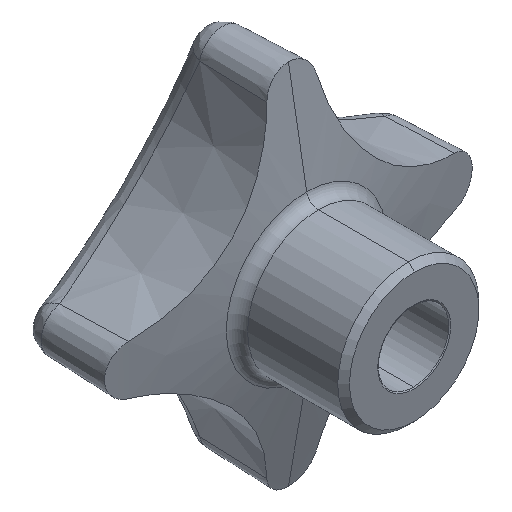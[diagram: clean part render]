
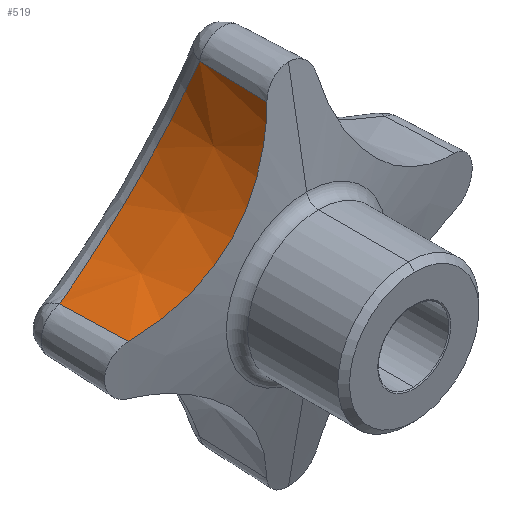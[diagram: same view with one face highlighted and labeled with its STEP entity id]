
A CAD part, isometric view. The second image highlights one B-rep face of the part: STEP entity #519.
In plain terms, the highlighted conical face has half-angle 2 degrees and reference radius 13.981 mm.
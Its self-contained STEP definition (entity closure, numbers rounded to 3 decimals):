
#38 = DIRECTION ( 'NONE',  ( 0., 1., 0. ) ) ;
#42 = CARTESIAN_POINT ( 'NONE',  ( -13.822, 16.327, 1.903 ) ) ;
#62 = CARTESIAN_POINT ( 'NONE',  ( -5.88, 9.47, 6.379 ) ) ;
#72 = CARTESIAN_POINT ( 'NONE',  ( -12.421, 10.172, 2.415 ) ) ;
#123 = CARTESIAN_POINT ( 'NONE',  ( -3.616, 17.546, 8.936 ) ) ;
#139 = VERTEX_POINT ( 'NONE', #1967 ) ;
#141 = LINE ( 'NONE', #931, #1104 ) ;
#161 = VERTEX_POINT ( 'NONE', #539 ) ;
#178 = FACE_OUTER_BOUND ( 'NONE', #1506, .T. ) ;
#227 = CARTESIAN_POINT ( 'NONE',  ( -2.234, 10.29, 13.129 ) ) ;
#255 = CARTESIAN_POINT ( 'NONE',  ( -3.181, 9.847, 10.338 ) ) ;
#266 = CARTESIAN_POINT ( 'NONE',  ( -13.097, 16.565, 2.017 ) ) ;
#325 = LINE ( 'NONE', #512, #1781 ) ;
#368 = CARTESIAN_POINT ( 'NONE',  ( -2.416, 10.172, 12.417 ) ) ;
#400 = CARTESIAN_POINT ( 'NONE',  ( -1.903, 16.327, 13.822 ) ) ;
#402 = CARTESIAN_POINT ( 'NONE',  ( -1.903, 16.327, 13.822 ) ) ;
#431 = ORIENTED_EDGE ( 'NONE', *, *, #1122, .T. ) ;
#456 = CARTESIAN_POINT ( 'NONE',  ( -2.918, 17.298, 10.287 ) ) ;
#466 = CARTESIAN_POINT ( 'NONE',  ( -8.926, 17.554, 3.604 ) ) ;
#475 = CARTESIAN_POINT ( 'NONE',  ( -2.186, 16.775, 12.383 ) ) ;
#481 = CARTESIAN_POINT ( 'NONE',  ( -16.25, 0., 16.25 ) ) ;
#499 = ORIENTED_EDGE ( 'NONE', *, *, #849, .T. ) ;
#512 = CARTESIAN_POINT ( 'NONE',  ( -2.465, 0., 13.917 ) ) ;
#519 = ADVANCED_FACE ( 'NONE', ( #178 ), #1364, .F. ) ;
#535 = B_SPLINE_CURVE_WITH_KNOTS ( 'NONE', 3,
 ( #402, #1387, #475, #589, #456, #1100, #123, #782, #1239, #1211, #1849, #597, #2038, #915, #466, #2019, #772, #893, #266, #902 ),
 .UNSPECIFIED., .F., .F.,
 ( 4, 2, 2, 2, 2, 2, 2, 2, 2, 4 ),
 ( 0., 0.002, 0.005, 0.006, 0.007, 0.009, 0.011, 0.014, 0.016, 0.018 ),
 .UNSPECIFIED. ) ;
#539 = CARTESIAN_POINT ( 'NONE',  ( -2.106, 10.413, 13.857 ) ) ;
#589 = CARTESIAN_POINT ( 'NONE',  ( -2.637, 17.141, 10.978 ) ) ;
#597 = CARTESIAN_POINT ( 'NONE',  ( -6.471, 17.812, 5.378 ) ) ;
#665 = VERTEX_POINT ( 'NONE', #42 ) ;
#687 = CARTESIAN_POINT ( 'NONE',  ( -5.625, 9.477, 6.654 ) ) ;
#707 = CARTESIAN_POINT ( 'NONE',  ( -11.038, 9.952, 2.883 ) ) ;
#739 = DIRECTION ( 'NONE',  ( -0.006, -0.999, 0.034 ) ) ;
#772 = CARTESIAN_POINT ( 'NONE',  ( -10.977, 17.142, 2.637 ) ) ;
#782 = CARTESIAN_POINT ( 'NONE',  ( -4.01, 17.642, 8.288 ) ) ;
#799 = DIRECTION ( 'NONE',  ( 0., 0., -1. ) ) ;
#800 = DIRECTION ( 'NONE',  ( -0.034, -0.999, 0.006 ) ) ;
#849 = EDGE_CURVE ( 'NONE', #1167, #665, #535, .T. ) ;
#853 = CARTESIAN_POINT ( 'NONE',  ( -2.106, 10.413, 13.857 ) ) ;
#881 = CARTESIAN_POINT ( 'NONE',  ( -2.888, 9.95, 11.024 ) ) ;
#893 = CARTESIAN_POINT ( 'NONE',  ( -12.383, 16.775, 2.186 ) ) ;
#902 = CARTESIAN_POINT ( 'NONE',  ( -13.822, 16.327, 1.903 ) ) ;
#910 = EDGE_CURVE ( 'NONE', #665, #139, #141, .T. ) ;
#915 = CARTESIAN_POINT ( 'NONE',  ( -8.279, 17.65, 3.998 ) ) ;
#919 = ORIENTED_EDGE ( 'NONE', *, *, #910, .T. ) ;
#931 = CARTESIAN_POINT ( 'NONE',  ( -13.917, 0., 2.465 ) ) ;
#1012 = CARTESIAN_POINT ( 'NONE',  ( -13.13, 10.29, 2.234 ) ) ;
#1100 = CARTESIAN_POINT ( 'NONE',  ( -3.431, 17.49, 9.269 ) ) ;
#1104 = VECTOR ( 'NONE', #739, 1000. ) ;
#1122 = EDGE_CURVE ( 'NONE', #139, #161, #1904, .T. ) ;
#1149 = CARTESIAN_POINT ( 'NONE',  ( -8.119, 9.575, 4.462 ) ) ;
#1159 = CARTESIAN_POINT ( 'NONE',  ( -3.863, 9.671, 9.03 ) ) ;
#1167 = VERTEX_POINT ( 'NONE', #400 ) ;
#1187 = CARTESIAN_POINT ( 'NONE',  ( -9.053, 9.677, 3.865 ) ) ;
#1211 = CARTESIAN_POINT ( 'NONE',  ( -4.885, 17.779, 7.051 ) ) ;
#1239 = CARTESIAN_POINT ( 'NONE',  ( -4.219, 17.682, 7.973 ) ) ;
#1296 = AXIS2_PLACEMENT_3D ( 'NONE', #481, #38, #799 ) ;
#1322 = CARTESIAN_POINT ( 'NONE',  ( -6.668, 9.471, 5.593 ) ) ;
#1332 = CARTESIAN_POINT ( 'NONE',  ( -9.378, 9.718, 3.681 ) ) ;
#1364 = CONICAL_SURFACE ( 'NONE', #1296, 13.981, 0.035 ) ;
#1374 = EDGE_CURVE ( 'NONE', #1167, #161, #325, .T. ) ;
#1387 = CARTESIAN_POINT ( 'NONE',  ( -2.017, 16.565, 13.097 ) ) ;
#1498 = CARTESIAN_POINT ( 'NONE',  ( -13.857, 10.413, 2.106 ) ) ;
#1506 = EDGE_LOOP ( 'NONE', ( #1595, #499, #919, #431 ) ) ;
#1595 = ORIENTED_EDGE ( 'NONE', *, *, #1374, .F. ) ;
#1630 = CARTESIAN_POINT ( 'NONE',  ( -4.908, 9.523, 7.511 ) ) ;
#1781 = VECTOR ( 'NONE', #800, 1000. ) ;
#1796 = CARTESIAN_POINT ( 'NONE',  ( -10.364, 9.851, 3.169 ) ) ;
#1803 = CARTESIAN_POINT ( 'NONE',  ( -8.425, 9.605, 4.256 ) ) ;
#1814 = CARTESIAN_POINT ( 'NONE',  ( -7.228, 9.499, 5.114 ) ) ;
#1849 = CARTESIAN_POINT ( 'NONE',  ( -5.379, 17.812, 6.47 ) ) ;
#1904 = B_SPLINE_CURVE_WITH_KNOTS ( 'NONE', 3,
 ( #1498, #1012, #72, #707, #1796, #1332, #1187, #1803, #1149, #1814, #1322, #62, #687, #1942, #1630, #1962, #1159, #255, #881, #368, #227, #853 ),
 .UNSPECIFIED., .F., .F.,
 ( 4, 2, 2, 2, 2, 2, 2, 2, 2, 2, 4 ),
 ( 0., 0.002, 0.004, 0.006, 0.007, 0.009, 0.01, 0.011, 0.013, 0.016, 0.018 ),
 .UNSPECIFIED. ) ;
#1942 = CARTESIAN_POINT ( 'NONE',  ( -5.138, 9.503, 7.221 ) ) ;
#1962 = CARTESIAN_POINT ( 'NONE',  ( -4.252, 9.599, 8.405 ) ) ;
#1967 = CARTESIAN_POINT ( 'NONE',  ( -13.857, 10.413, 2.106 ) ) ;
#2019 = CARTESIAN_POINT ( 'NONE',  ( -10.285, 17.298, 2.919 ) ) ;
#2038 = CARTESIAN_POINT ( 'NONE',  ( -7.051, 17.779, 4.885 ) ) ;
